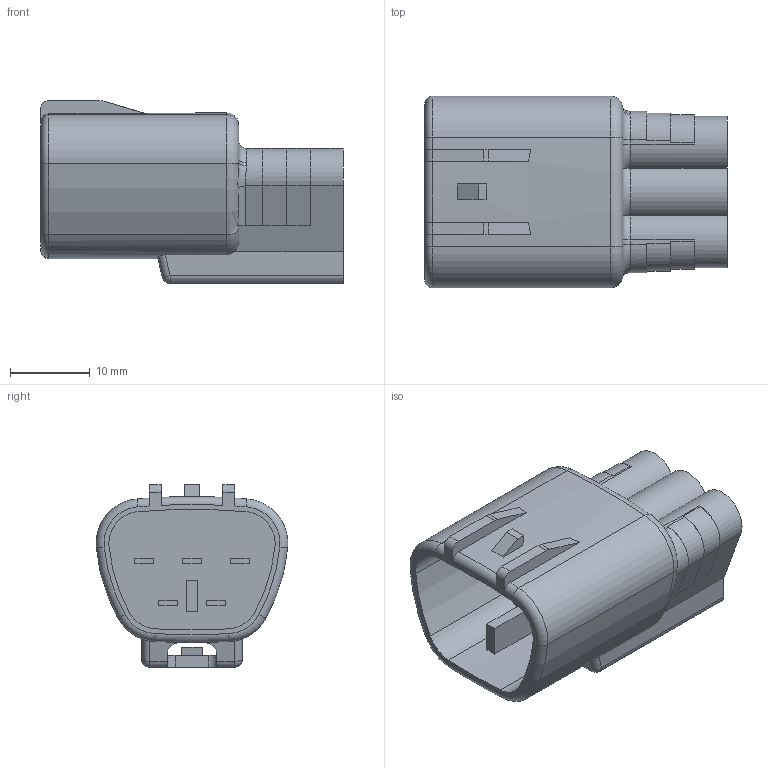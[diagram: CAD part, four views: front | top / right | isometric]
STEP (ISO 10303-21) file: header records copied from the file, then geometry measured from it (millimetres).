
FILE_DESCRIPTION(('CATIA V5 STEP Exchange'),'2;1');
FILE_NAME('N:\C-DAM_MyDesk\ENV\900093\6188-0327.stp','2013-08-20T08:00:42+00:00',('none'),('none'),'CATIA Version 5 Release 20 SP 4 (IN-10)','CATIA V5 STEP AP203','none');
FILE_SCHEMA(('CONFIG_CONTROL_DESIGN'));
Length unit declared in the file: millimetre
Products named in the file (1): 6188-0327
Bounding box: 37.9 x 24.01 x 22.9 mm (x, y, z)
Volume: 8936.2 mm3; surface area: 4911 mm2
Topology: 1 solids, 1 shells, 187 faces, 493 edges, 317 vertices
Faces by surface type: plane 103, cylinder 51, torus 22, bspline 9, sphere 2
Entity records: 5931 total; most frequent: CARTESIAN_POINT 1539, ORIENTED_EDGE 982, DIRECTION 733, EDGE_CURVE 491, VERTEX_POINT 317, VECTOR 297, LINE 297, AXIS2_PLACEMENT_3D 290
